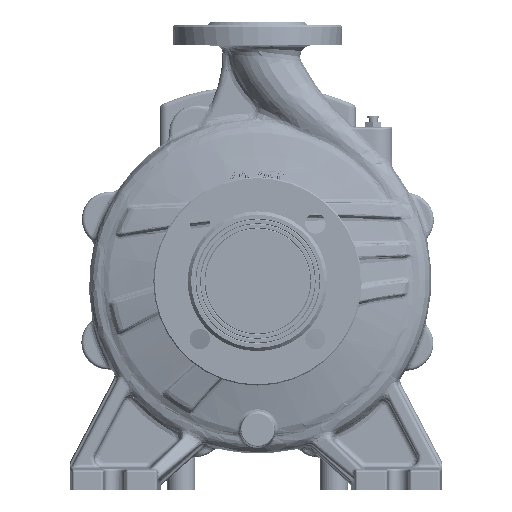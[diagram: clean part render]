
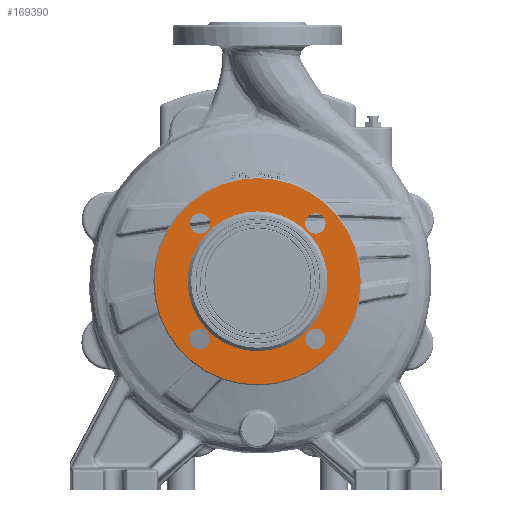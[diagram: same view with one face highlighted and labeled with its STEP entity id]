
A CAD part, left-side view. The second image highlights one B-rep face of the part: STEP entity #169390.
In plain terms, the highlighted planar face has unit normal (-1, 0, 0).
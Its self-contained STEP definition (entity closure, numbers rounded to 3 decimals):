
#1289 = VERTEX_POINT ( 'NONE', #109212 ) ;
#3114 = DIRECTION ( 'NONE',  ( -1., 0., 0. ) ) ;
#3241 = ORIENTED_EDGE ( 'NONE', *, *, #162708, .F. ) ;
#4401 = CARTESIAN_POINT ( 'NONE',  ( -240.245, 51.265, 42.265 ) ) ;
#4906 = AXIS2_PLACEMENT_3D ( 'NONE', #5526, #144155, #95979 ) ;
#5526 = CARTESIAN_POINT ( 'NONE',  ( -240.245, 0., 0. ) ) ;
#7427 = EDGE_CURVE ( 'NONE', #1289, #173313, #89650, .T. ) ;
#8536 = DIRECTION ( 'NONE',  ( 0., 0., 1. ) ) ;
#11220 = CARTESIAN_POINT ( 'NONE',  ( -240.245, 51.265, -60.265 ) ) ;
#11761 = DIRECTION ( 'NONE',  ( 0., 0., 1. ) ) ;
#13371 = CARTESIAN_POINT ( 'NONE',  ( -240.245, -51.265, 51.265 ) ) ;
#15705 = CARTESIAN_POINT ( 'NONE',  ( -240.245, 51.265, -51.265 ) ) ;
#15715 = CIRCLE ( 'NONE', #144483, 9. ) ;
#16575 = ORIENTED_EDGE ( 'NONE', *, *, #104708, .F. ) ;
#17747 = ORIENTED_EDGE ( 'NONE', *, *, #55921, .T. ) ;
#19522 = CARTESIAN_POINT ( 'NONE',  ( -240.245, 0., 62. ) ) ;
#23802 = ORIENTED_EDGE ( 'NONE', *, *, #47668, .F. ) ;
#23955 = AXIS2_PLACEMENT_3D ( 'NONE', #13371, #133333, #103838 ) ;
#26461 = CIRCLE ( 'NONE', #114353, 9. ) ;
#27152 = CIRCLE ( 'NONE', #143423, 9. ) ;
#27808 = DIRECTION ( 'NONE',  ( 0., 0., 1. ) ) ;
#28329 = DIRECTION ( 'NONE',  ( -1., 0., 0. ) ) ;
#28712 = DIRECTION ( 'NONE',  ( 0., 0., 1. ) ) ;
#32309 = VERTEX_POINT ( 'NONE', #132836 ) ;
#33137 = EDGE_CURVE ( 'NONE', #34898, #170240, #15715, .T. ) ;
#34898 = VERTEX_POINT ( 'NONE', #163411 ) ;
#36362 = EDGE_LOOP ( 'NONE', ( #63185, #17747 ) ) ;
#36564 = CIRCLE ( 'NONE', #23955, 9. ) ;
#39251 = AXIS2_PLACEMENT_3D ( 'NONE', #181142, #3114, #28712 ) ;
#41424 = DIRECTION ( 'NONE',  ( 1., 0., 0. ) ) ;
#43392 = DIRECTION ( 'NONE',  ( 0., 0., 1. ) ) ;
#44384 = DIRECTION ( 'NONE',  ( -1., 0., 0. ) ) ;
#47668 = EDGE_CURVE ( 'NONE', #32309, #103091, #36564, .T. ) ;
#53349 = ORIENTED_EDGE ( 'NONE', *, *, #102052, .F. ) ;
#54931 = FACE_OUTER_BOUND ( 'NONE', #125403, .T. ) ;
#55921 = EDGE_CURVE ( 'NONE', #153473, #187522, #187314, .T. ) ;
#58708 = AXIS2_PLACEMENT_3D ( 'NONE', #113967, #28329, #130627 ) ;
#60319 = CIRCLE ( 'NONE', #107544, 9. ) ;
#62052 = ORIENTED_EDGE ( 'NONE', *, *, #159214, .F. ) ;
#62558 = CARTESIAN_POINT ( 'NONE',  ( -240.245, 51.265, -42.265 ) ) ;
#63185 = ORIENTED_EDGE ( 'NONE', *, *, #77460, .T. ) ;
#69943 = CIRCLE ( 'NONE', #148540, 9. ) ;
#70995 = AXIS2_PLACEMENT_3D ( 'NONE', #146676, #41424, #174297 ) ;
#71182 = ORIENTED_EDGE ( 'NONE', *, *, #82010, .F. ) ;
#71607 = FACE_BOUND ( 'NONE', #167010, .T. ) ;
#73961 = CARTESIAN_POINT ( 'NONE',  ( -240.245, 51.265, -51.265 ) ) ;
#77460 = EDGE_CURVE ( 'NONE', #187522, #153473, #167441, .T. ) ;
#77621 = DIRECTION ( 'NONE',  ( -1., 0., 0. ) ) ;
#82010 = EDGE_CURVE ( 'NONE', #105570, #84799, #27152, .T. ) ;
#84799 = VERTEX_POINT ( 'NONE', #191918 ) ;
#89371 = AXIS2_PLACEMENT_3D ( 'NONE', #154295, #121807, #168069 ) ;
#89650 = CIRCLE ( 'NONE', #4906, 91.5 ) ;
#95977 = CARTESIAN_POINT ( 'NONE',  ( -240.245, 51.265, 51.265 ) ) ;
#95979 = DIRECTION ( 'NONE',  ( 0., 0., 1. ) ) ;
#101143 = FACE_BOUND ( 'NONE', #144507, .T. ) ;
#102052 = EDGE_CURVE ( 'NONE', #170240, #34898, #26461, .T. ) ;
#102986 = AXIS2_PLACEMENT_3D ( 'NONE', #73961, #133967, #27808 ) ;
#103091 = VERTEX_POINT ( 'NONE', #182419 ) ;
#103838 = DIRECTION ( 'NONE',  ( 0., 0., 1. ) ) ;
#104708 = EDGE_CURVE ( 'NONE', #84799, #105570, #69943, .T. ) ;
#105246 = CIRCLE ( 'NONE', #39251, 9. ) ;
#105570 = VERTEX_POINT ( 'NONE', #134918 ) ;
#106243 = DIRECTION ( 'NONE',  ( -1., 0., 0. ) ) ;
#107544 = AXIS2_PLACEMENT_3D ( 'NONE', #15705, #77621, #182887 ) ;
#109212 = CARTESIAN_POINT ( 'NONE',  ( -240.245, 0., 91.5 ) ) ;
#109829 = VERTEX_POINT ( 'NONE', #62558 ) ;
#113967 = CARTESIAN_POINT ( 'NONE',  ( -240.245, 0., -62. ) ) ;
#114237 = ORIENTED_EDGE ( 'NONE', *, *, #163625, .F. ) ;
#114353 = AXIS2_PLACEMENT_3D ( 'NONE', #95977, #171744, #155995 ) ;
#114918 = FACE_BOUND ( 'NONE', #139522, .T. ) ;
#116847 = PLANE ( 'NONE',  #58708 ) ;
#117786 = FACE_BOUND ( 'NONE', #123563, .T. ) ;
#118699 = CIRCLE ( 'NONE', #102986, 9. ) ;
#120003 = DIRECTION ( 'NONE',  ( 0., 0., 1. ) ) ;
#121807 = DIRECTION ( 'NONE',  ( 1., 0., 0. ) ) ;
#123351 = EDGE_CURVE ( 'NONE', #141470, #109829, #118699, .T. ) ;
#123563 = EDGE_LOOP ( 'NONE', ( #192287, #62052 ) ) ;
#123630 = CARTESIAN_POINT ( 'NONE',  ( -240.246, 0., -62. ) ) ;
#125403 = EDGE_LOOP ( 'NONE', ( #176616, #3241 ) ) ;
#127077 = ORIENTED_EDGE ( 'NONE', *, *, #33137, .F. ) ;
#128511 = DIRECTION ( 'NONE',  ( -1., 0., 0. ) ) ;
#128705 = FACE_BOUND ( 'NONE', #36362, .T. ) ;
#130627 = DIRECTION ( 'NONE',  ( 0., 1., 0. ) ) ;
#132836 = CARTESIAN_POINT ( 'NONE',  ( -240.245, -51.265, 60.265 ) ) ;
#133333 = DIRECTION ( 'NONE',  ( -1., 0., 0. ) ) ;
#133967 = DIRECTION ( 'NONE',  ( -1., 0., 0. ) ) ;
#134918 = CARTESIAN_POINT ( 'NONE',  ( -240.245, -51.265, -42.265 ) ) ;
#136727 = CARTESIAN_POINT ( 'NONE',  ( -240.245, -51.265, -51.265 ) ) ;
#139522 = EDGE_LOOP ( 'NONE', ( #53349, #127077 ) ) ;
#141470 = VERTEX_POINT ( 'NONE', #11220 ) ;
#143423 = AXIS2_PLACEMENT_3D ( 'NONE', #136727, #106243, #120003 ) ;
#144155 = DIRECTION ( 'NONE',  ( 1., 0., 0. ) ) ;
#144483 = AXIS2_PLACEMENT_3D ( 'NONE', #161901, #128511, #8536 ) ;
#144507 = EDGE_LOOP ( 'NONE', ( #16575, #71182 ) ) ;
#145559 = CARTESIAN_POINT ( 'NONE',  ( -240.245, 0., 0. ) ) ;
#146676 = CARTESIAN_POINT ( 'NONE',  ( -240.245, 0., 0. ) ) ;
#148540 = AXIS2_PLACEMENT_3D ( 'NONE', #149630, #44384, #43392 ) ;
#149630 = CARTESIAN_POINT ( 'NONE',  ( -240.245, -51.265, -51.265 ) ) ;
#151871 = AXIS2_PLACEMENT_3D ( 'NONE', #145559, #189848, #11761 ) ;
#153473 = VERTEX_POINT ( 'NONE', #123630 ) ;
#154295 = CARTESIAN_POINT ( 'NONE',  ( -240.245, 0., 0. ) ) ;
#155995 = DIRECTION ( 'NONE',  ( 0., 0., 1. ) ) ;
#159214 = EDGE_CURVE ( 'NONE', #109829, #141470, #60319, .T. ) ;
#161901 = CARTESIAN_POINT ( 'NONE',  ( -240.245, 51.265, 51.265 ) ) ;
#162708 = EDGE_CURVE ( 'NONE', #173313, #1289, #183652, .T. ) ;
#163411 = CARTESIAN_POINT ( 'NONE',  ( -240.245, 51.265, 60.265 ) ) ;
#163625 = EDGE_CURVE ( 'NONE', #103091, #32309, #105246, .T. ) ;
#167010 = EDGE_LOOP ( 'NONE', ( #114237, #23802 ) ) ;
#167441 = CIRCLE ( 'NONE', #151871, 62. ) ;
#168069 = DIRECTION ( 'NONE',  ( 0., 0., 1. ) ) ;
#169390 = ADVANCED_FACE ( 'NONE', ( #54931, #117786, #101143, #71607, #114918, #128705 ), #116847, .T. ) ;
#170240 = VERTEX_POINT ( 'NONE', #4401 ) ;
#171744 = DIRECTION ( 'NONE',  ( -1., 0., 0. ) ) ;
#173313 = VERTEX_POINT ( 'NONE', #193618 ) ;
#174297 = DIRECTION ( 'NONE',  ( 0., 0., 1. ) ) ;
#176616 = ORIENTED_EDGE ( 'NONE', *, *, #7427, .F. ) ;
#181142 = CARTESIAN_POINT ( 'NONE',  ( -240.245, -51.265, 51.265 ) ) ;
#182419 = CARTESIAN_POINT ( 'NONE',  ( -240.245, -51.265, 42.265 ) ) ;
#182887 = DIRECTION ( 'NONE',  ( 0., 0., 1. ) ) ;
#183652 = CIRCLE ( 'NONE', #89371, 91.5 ) ;
#187314 = CIRCLE ( 'NONE', #70995, 62. ) ;
#187522 = VERTEX_POINT ( 'NONE', #19522 ) ;
#189848 = DIRECTION ( 'NONE',  ( 1., 0., 0. ) ) ;
#191918 = CARTESIAN_POINT ( 'NONE',  ( -240.245, -51.265, -60.265 ) ) ;
#192287 = ORIENTED_EDGE ( 'NONE', *, *, #123351, .F. ) ;
#193618 = CARTESIAN_POINT ( 'NONE',  ( -240.246, 0., -91.5 ) ) ;
